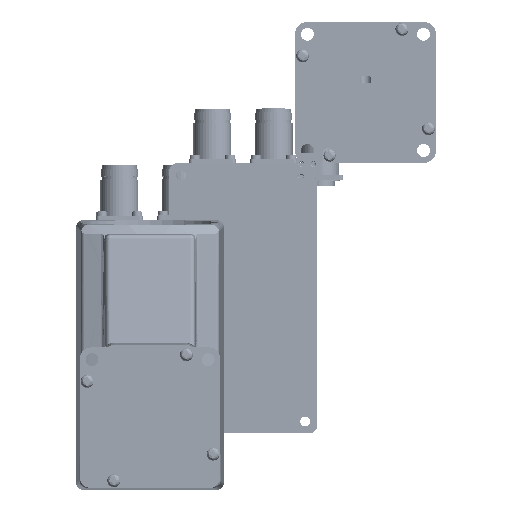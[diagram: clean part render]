
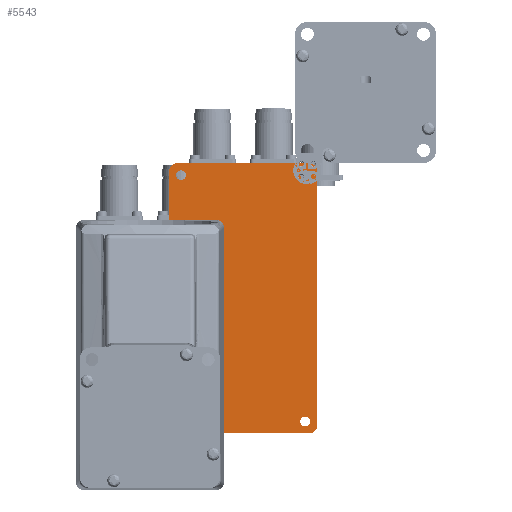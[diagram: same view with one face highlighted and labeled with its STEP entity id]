
A CAD part, front view. The second image highlights one B-rep face of the part: STEP entity #5543.
In plain terms, the highlighted planar face has unit normal (0, -1, 0).
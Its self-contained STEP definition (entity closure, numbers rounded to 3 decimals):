
#5543 = ADVANCED_FACE( '', ( #11609, #11610, #11611, #11612, #11613 ), #11614, .T. );
#11609 = FACE_OUTER_BOUND( '', #31836, .T. );
#11610 = FACE_BOUND( '', #31837, .T. );
#11611 = FACE_BOUND( '', #31838, .T. );
#11612 = FACE_BOUND( '', #31839, .T. );
#11613 = FACE_BOUND( '', #31840, .T. );
#11614 = PLANE( '', #31841 );
#31836 = EDGE_LOOP( '', ( #49558, #49559, #49560, #49561, #49562, #49563, #49564, #49565 ) );
#31837 = EDGE_LOOP( '', ( #49566 ) );
#31838 = EDGE_LOOP( '', ( #49567 ) );
#31839 = EDGE_LOOP( '', ( #49568 ) );
#31840 = EDGE_LOOP( '', ( #49569 ) );
#31841 = AXIS2_PLACEMENT_3D( '', #49570, #49571, #49572 );
#49558 = ORIENTED_EDGE( '', *, *, #58487, .T. );
#49559 = ORIENTED_EDGE( '', *, *, #57477, .T. );
#49560 = ORIENTED_EDGE( '', *, *, #55874, .T. );
#49561 = ORIENTED_EDGE( '', *, *, #57825, .T. );
#49562 = ORIENTED_EDGE( '', *, *, #56115, .T. );
#49563 = ORIENTED_EDGE( '', *, *, #54769, .T. );
#49564 = ORIENTED_EDGE( '', *, *, #57489, .T. );
#49565 = ORIENTED_EDGE( '', *, *, #55240, .T. );
#49566 = ORIENTED_EDGE( '', *, *, #56191, .F. );
#49567 = ORIENTED_EDGE( '', *, *, #56708, .F. );
#49568 = ORIENTED_EDGE( '', *, *, #54438, .F. );
#49569 = ORIENTED_EDGE( '', *, *, #58675, .F. );
#49570 = CARTESIAN_POINT( '', ( -49.717, 0., 14.646 ) );
#49571 = DIRECTION( '', ( 0., -1., 0. ) );
#49572 = DIRECTION( '', ( 0., 0., -1. ) );
#54438 = EDGE_CURVE( '', #62580, #62580, #62581, .T. );
#54769 = EDGE_CURVE( '', #63092, #63093, #63094, .T. );
#55240 = EDGE_CURVE( '', #63808, #63809, #63810, .T. );
#55874 = EDGE_CURVE( '', #64783, #64784, #64785, .T. );
#56115 = EDGE_CURVE( '', #65130, #63092, #65131, .T. );
#56191 = EDGE_CURVE( '', #65235, #65235, #65236, .T. );
#56708 = EDGE_CURVE( '', #65966, #65966, #65967, .T. );
#57477 = EDGE_CURVE( '', #66976, #64783, #66977, .T. );
#57489 = EDGE_CURVE( '', #63093, #63808, #66991, .T. );
#57825 = EDGE_CURVE( '', #64784, #65130, #67397, .T. );
#58487 = EDGE_CURVE( '', #63809, #66976, #68174, .T. );
#58675 = EDGE_CURVE( '', #68383, #68383, #68384, .T. );
#62580 = VERTEX_POINT( '', #81694 );
#62581 = CIRCLE( '', #81695, 2.1 );
#63092 = VERTEX_POINT( '', #83545 );
#63093 = VERTEX_POINT( '', #83546 );
#63094 = ELLIPSE( '', #83547, 3.201, 3.2 );
#63808 = VERTEX_POINT( '', #87059 );
#63809 = VERTEX_POINT( '', #87060 );
#63810 = ELLIPSE( '', #87061, 3.201, 3.2 );
#64783 = VERTEX_POINT( '', #90924 );
#64784 = VERTEX_POINT( '', #90925 );
#64785 = LINE( '', #90926, #90927 );
#65130 = VERTEX_POINT( '', #92499 );
#65131 = LINE( '', #92500, #92501 );
#65235 = VERTEX_POINT( '', #92818 );
#65236 = CIRCLE( '', #92819, 2.1 );
#65966 = VERTEX_POINT( '', #95499 );
#65967 = CIRCLE( '', #95500, 2.1 );
#66976 = VERTEX_POINT( '', #101630 );
#66977 = ELLIPSE( '', #101631, 3.201, 3.2 );
#66991 = LINE( '', #101713, #101714 );
#67397 = ELLIPSE( '', #103403, 3.201, 3.2 );
#68174 = LINE( '', #107611, #107612 );
#68383 = VERTEX_POINT( '', #108764 );
#68384 = CIRCLE( '', #108765, 2.1 );
#81694 = CARTESIAN_POINT( '', ( -44.87, 0., 6.949 ) );
#81695 = AXIS2_PLACEMENT_3D( '', #114058, #114059, #114060 );
#83545 = CARTESIAN_POINT( '', ( -49.9, 0., -97.721 ) );
#83546 = CARTESIAN_POINT( '', ( -46.7, 0., -100.921 ) );
#83547 = AXIS2_PLACEMENT_3D( '', #114471, #114472, #114473 );
#87059 = CARTESIAN_POINT( '', ( 9.901, 0., -100.921 ) );
#87060 = CARTESIAN_POINT( '', ( 13.1, 0., -97.721 ) );
#87061 = AXIS2_PLACEMENT_3D( '', #115049, #115050, #115051 );
#90924 = CARTESIAN_POINT( '', ( 9.901, 0., 14.079 ) );
#90925 = CARTESIAN_POINT( '', ( -46.7, 0., 14.079 ) );
#90926 = CARTESIAN_POINT( '', ( -49.717, 0., 14.079 ) );
#90927 = VECTOR( '', #115885, 1000. );
#92499 = CARTESIAN_POINT( '', ( -49.9, 0., 10.88 ) );
#92500 = CARTESIAN_POINT( '', ( -49.9, 0., 14.646 ) );
#92501 = VECTOR( '', #116200, 1000. );
#92818 = CARTESIAN_POINT( '', ( -44.87, 0., -97.991 ) );
#92819 = AXIS2_PLACEMENT_3D( '', #116293, #116294, #116295 );
#95499 = CARTESIAN_POINT( '', ( 8.07, 0., -97.991 ) );
#95500 = AXIS2_PLACEMENT_3D( '', #116928, #116929, #116930 );
#101630 = CARTESIAN_POINT( '', ( 13.1, 0., 10.88 ) );
#101631 = AXIS2_PLACEMENT_3D( '', #117736, #117737, #117738 );
#101713 = CARTESIAN_POINT( '', ( -49.717, 0., -100.921 ) );
#101714 = VECTOR( '', #117746, 1000. );
#103403 = AXIS2_PLACEMENT_3D( '', #118120, #118121, #118122 );
#107611 = CARTESIAN_POINT( '', ( 13.1, 0., 14.646 ) );
#107612 = VECTOR( '', #118745, 1000. );
#108764 = CARTESIAN_POINT( '', ( 8.07, 0., 6.949 ) );
#108765 = AXIS2_PLACEMENT_3D( '', #118877, #118878, #118879 );
#114058 = CARTESIAN_POINT( '', ( -44.87, 0., 9.049 ) );
#114059 = DIRECTION( '', ( 0., -1., 0. ) );
#114060 = DIRECTION( '', ( 0., 0., -1. ) );
#114471 = CARTESIAN_POINT( '', ( -46.699, 0., -97.72 ) );
#114472 = DIRECTION( '', ( 0., -1., 0. ) );
#114473 = DIRECTION( '', ( -0.707, 0., -0.707 ) );
#115049 = CARTESIAN_POINT( '', ( 9.9, 0., -97.72 ) );
#115050 = DIRECTION( '', ( 0., -1., 0. ) );
#115051 = DIRECTION( '', ( -0.707, 0., 0.707 ) );
#115885 = DIRECTION( '', ( -1., 0., 0. ) );
#116200 = DIRECTION( '', ( 0., 0., -1. ) );
#116293 = CARTESIAN_POINT( '', ( -44.87, 0., -95.891 ) );
#116294 = DIRECTION( '', ( 0., -1., 0. ) );
#116295 = DIRECTION( '', ( 0., 0., -1. ) );
#116928 = CARTESIAN_POINT( '', ( 8.07, 0., -95.891 ) );
#116929 = DIRECTION( '', ( 0., -1., 0. ) );
#116930 = DIRECTION( '', ( 0., 0., -1. ) );
#117736 = CARTESIAN_POINT( '', ( 9.9, 0., 10.879 ) );
#117737 = DIRECTION( '', ( 0., -1., 0. ) );
#117738 = DIRECTION( '', ( -0.707, 0., -0.707 ) );
#117746 = DIRECTION( '', ( 1., 0., 0. ) );
#118120 = CARTESIAN_POINT( '', ( -46.699, 0., 10.879 ) );
#118121 = DIRECTION( '', ( 0., -1., 0. ) );
#118122 = DIRECTION( '', ( -0.707, 0., 0.707 ) );
#118745 = DIRECTION( '', ( 0., 0., 1. ) );
#118877 = CARTESIAN_POINT( '', ( 8.07, 0., 9.049 ) );
#118878 = DIRECTION( '', ( 0., -1., 0. ) );
#118879 = DIRECTION( '', ( 0., 0., -1. ) );
